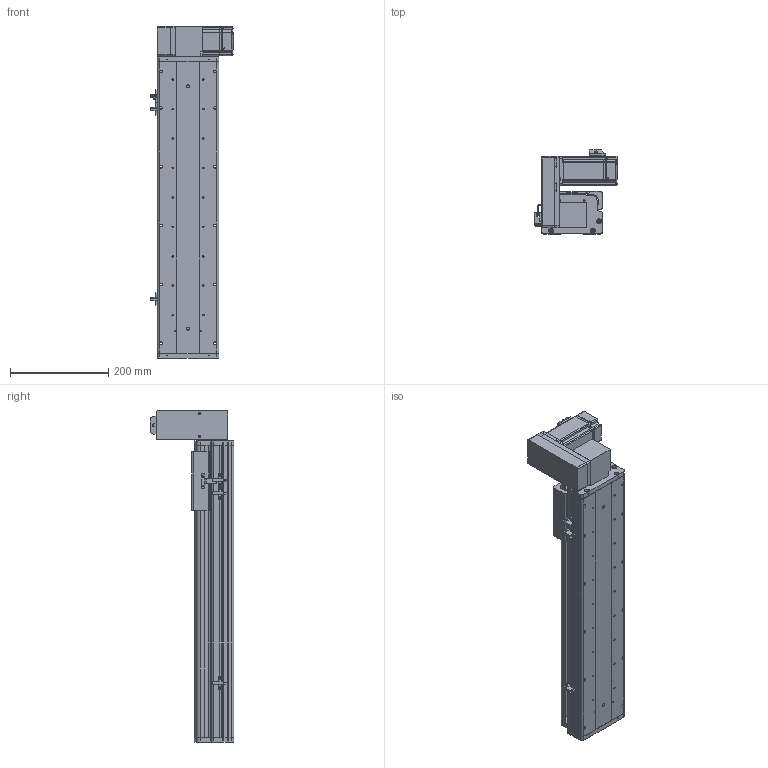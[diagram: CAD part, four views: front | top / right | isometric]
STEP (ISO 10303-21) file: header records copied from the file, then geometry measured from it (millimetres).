
FILE_DESCRIPTION (( 'STEP AP214' ), '1' );
FILE_NAME ('KSD125B-S400-MRU-CM.STEP', '2017-10-21T07:24:11', ( '微软用户' ), ( '微软中国' ), 'SwSTEP 2.0', 'SolidWorks 2014', '' );
FILE_SCHEMA (( 'AUTOMOTIVE_DESIGN' ));
Length unit declared in the file: millimetre
Products named in the file (17): KSD125B-S400-MRU-CM; 悵誘欶奻狟殏; MHMD042G1CA_2_03; HTPA30S3M150_A_H6_a佪裝蚚; HTPA30S3M150_A_H6_a萇儂蚚; 100宽马达安装板连板上下折丝杆同步带; KSD125模组400行程同步带-防尘盖; 125模组400行程同步带-底板; KSD125模组同步带-防撞垫2; 覜茼え68遵圉猾敕; U倰嫖萇假蚾璃; U倰嫖萇EEㄜSX672; KSD125模组同步带-防撞垫1; 100宽马达安装板同步带右; 前端板-125宽模组同步带; 125模组同步带-尾端板1; KSD125模组同步带-滑动座1
Assembly tree (20 placements, depth 2):
  KSD125B-S400-MRU-CM
    KSD125模组同步带-滑动座1
    125模组同步带-尾端板1
    前端板-125宽模组同步带
    100宽马达安装板同步带右
    KSD125模组同步带-防撞垫1
    U倰嫖萇EEㄜSX672  x3
    U倰嫖萇假蚾璃  x3
    覜茼え68遵圉猾敕
    KSD125模组同步带-防撞垫2
    125模组400行程同步带-底板
    KSD125模组400行程同步带-防尘盖
    100宽马达安装板连板上下折丝杆同步带
    HTPA30S3M150_A_H6_a萇儂蚚
    HTPA30S3M150_A_H6_a佪裝蚚
    MHMD042G1CA_2_03
    悵誘欶奻狟殏
Bounding box: 168.7 x 170.5 x 677 mm (x, y, z)
Volume: 2322716.4 mm3; surface area: 816757.1 mm2
Topology: 19 solids, 22 shells, 2231 faces, 6457 edges, 4266 vertices
Faces by surface type: cylinder 1384, plane 720, cone 105, bspline 22
Entity records: 78959 total; most frequent: CARTESIAN_POINT 15639, DIRECTION 12286, ORIENTED_EDGE 11434, EDGE_CURVE 5795, AXIS2_PLACEMENT_3D 4737, VERTEX_POINT 3858, LINE 2812, VECTOR 2812
